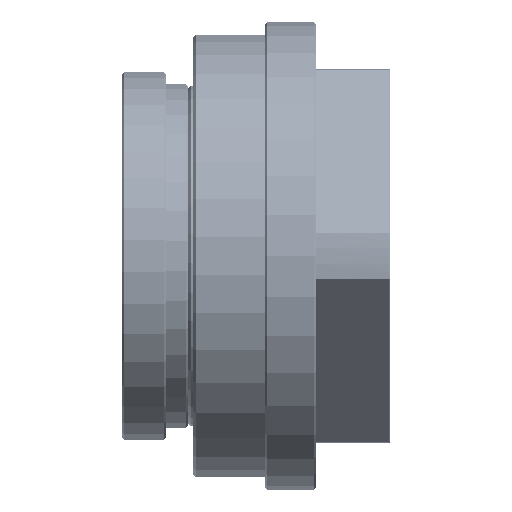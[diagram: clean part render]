
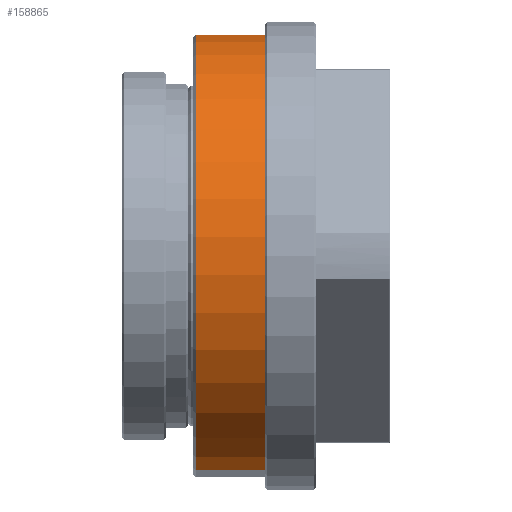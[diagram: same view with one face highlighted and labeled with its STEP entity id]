
A CAD part, left-side view. The second image highlights one B-rep face of the part: STEP entity #158865.
In plain terms, the highlighted cylindrical face has radius 45 mm (diameter 90 mm), a partial arc.
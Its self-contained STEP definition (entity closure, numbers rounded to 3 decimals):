
#3719 = ORIENTED_EDGE ( 'NONE', *, *, #134312, .T. ) ;
#5900 = DIRECTION ( 'NONE',  ( 0., 0., -1. ) ) ;
#20603 = CARTESIAN_POINT ( 'NONE',  ( 45., 0., 17.5 ) ) ;
#23290 = LINE ( 'NONE', #125107, #88598 ) ;
#30329 = DIRECTION ( 'NONE',  ( 1., 0., 0. ) ) ;
#38974 = AXIS2_PLACEMENT_3D ( 'NONE', #102366, #148417, #30329 ) ;
#40192 = CARTESIAN_POINT ( 'NONE',  ( -45., 0., 17. ) ) ;
#41252 = VERTEX_POINT ( 'NONE', #148185 ) ;
#43429 = CARTESIAN_POINT ( 'NONE',  ( 45., 0., 17. ) ) ;
#49443 = DIRECTION ( 'NONE',  ( 0., 0., -1. ) ) ;
#62227 = EDGE_LOOP ( 'NONE', ( #127121, #3719, #157145, #165563 ) ) ;
#62896 = LINE ( 'NONE', #20603, #153494 ) ;
#66526 = CIRCLE ( 'NONE', #38974, 45. ) ;
#81877 = DIRECTION ( 'NONE',  ( 0., 0., -1. ) ) ;
#83661 = DIRECTION ( 'NONE',  ( -1., 0., 0. ) ) ;
#86797 = EDGE_CURVE ( 'NONE', #41252, #156999, #66526, .T. ) ;
#88598 = VECTOR ( 'NONE', #81877, 1000. ) ;
#93120 = EDGE_CURVE ( 'NONE', #112544, #41252, #23290, .T. ) ;
#102366 = CARTESIAN_POINT ( 'NONE',  ( 0., 0., 0.5 ) ) ;
#109698 = DIRECTION ( 'NONE',  ( 0., 0., -1. ) ) ;
#110619 = FACE_OUTER_BOUND ( 'NONE', #62227, .T. ) ;
#112544 = VERTEX_POINT ( 'NONE', #40192 ) ;
#125107 = CARTESIAN_POINT ( 'NONE',  ( -45., 0., 17.5 ) ) ;
#126315 = AXIS2_PLACEMENT_3D ( 'NONE', #137473, #5900, #181643 ) ;
#127121 = ORIENTED_EDGE ( 'NONE', *, *, #158389, .F. ) ;
#128120 = CARTESIAN_POINT ( 'NONE',  ( 45., 0., 0.5 ) ) ;
#132517 = CIRCLE ( 'NONE', #126315, 45. ) ;
#134312 = EDGE_CURVE ( 'NONE', #170956, #112544, #132517, .T. ) ;
#137473 = CARTESIAN_POINT ( 'NONE',  ( 0., 0., 17. ) ) ;
#142269 = CARTESIAN_POINT ( 'NONE',  ( 0., 0., 17.5 ) ) ;
#148185 = CARTESIAN_POINT ( 'NONE',  ( -45., 0., 0.5 ) ) ;
#148417 = DIRECTION ( 'NONE',  ( 0., 0., 1. ) ) ;
#153494 = VECTOR ( 'NONE', #49443, 1000. ) ;
#154824 = CYLINDRICAL_SURFACE ( 'NONE', #163113, 45. ) ;
#156999 = VERTEX_POINT ( 'NONE', #128120 ) ;
#157145 = ORIENTED_EDGE ( 'NONE', *, *, #93120, .T. ) ;
#158389 = EDGE_CURVE ( 'NONE', #170956, #156999, #62896, .T. ) ;
#158865 = ADVANCED_FACE ( 'NONE', ( #110619 ), #154824, .T. ) ;
#163113 = AXIS2_PLACEMENT_3D ( 'NONE', #142269, #109698, #83661 ) ;
#165563 = ORIENTED_EDGE ( 'NONE', *, *, #86797, .T. ) ;
#170956 = VERTEX_POINT ( 'NONE', #43429 ) ;
#181643 = DIRECTION ( 'NONE',  ( 1., 0., 0. ) ) ;
